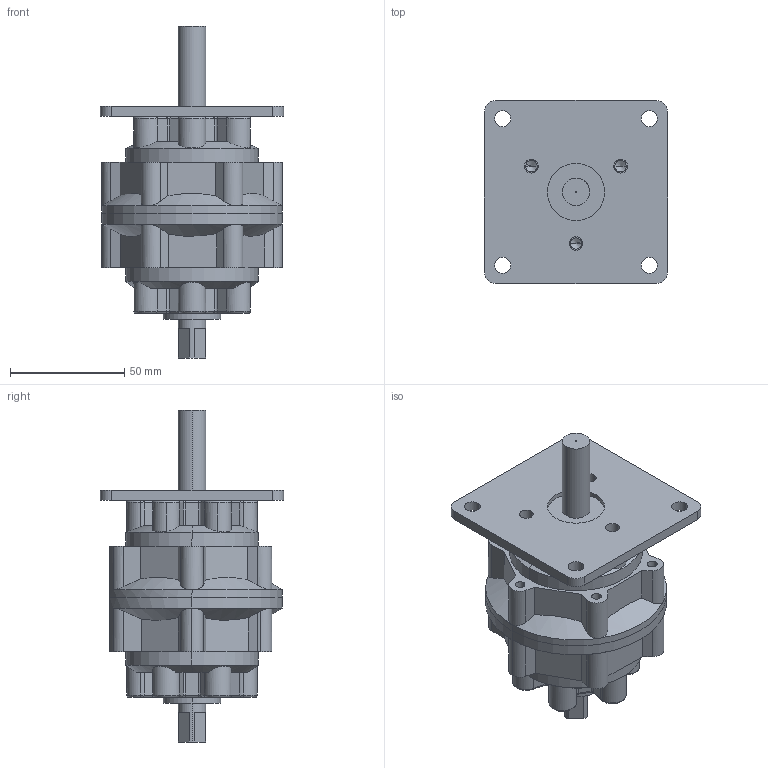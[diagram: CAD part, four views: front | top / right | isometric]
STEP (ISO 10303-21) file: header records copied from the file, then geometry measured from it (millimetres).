
FILE_DESCRIPTION (( 'STEP AP203' ), '1' );
FILE_NAME ('PRN50#-#-#-P.STEP', '2016-01-14T16:39:28', ( '' ), ( '' ), 'SwSTEP 2.0', 'SolidWorks 2014', '' );
FILE_SCHEMA (( 'CONFIG_CONTROL_DESIGN' ));
Length unit declared in the file: millimetre
Products named in the file (6): PRN50 (1); PRN50#-#-#-P; mark-PRN50; PRN50 (3); PRN50#-#-#-P (1); PRN50 (2)
Assembly tree (5 placements, depth 2):
  PRN50#-#-#-P
    PRN50 (1)
    PRN50 (2)
    PRN50 (3)
    mark-PRN50
    PRN50#-#-#-P (1)
Bounding box: 80 x 80 x 145 mm (x, y, z)
Volume: 270882 mm3; surface area: 73829.8 mm2
Topology: 11 solids, 11 shells, 523 faces, 1347 edges, 841 vertices
Faces by surface type: cylinder 234, plane 181, torus 53, cone 47, bspline 8
Entity records: 17428 total; most frequent: CARTESIAN_POINT 3869, DIRECTION 2823, ORIENTED_EDGE 2638, EDGE_CURVE 1319, AXIS2_PLACEMENT_3D 1086, VERTEX_POINT 841, LINE 651, VECTOR 651
